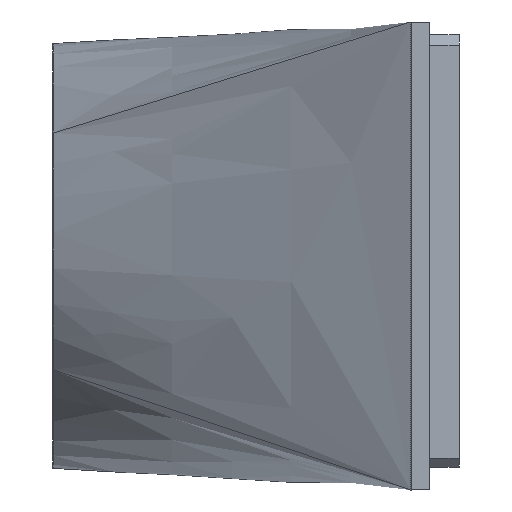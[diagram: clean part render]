
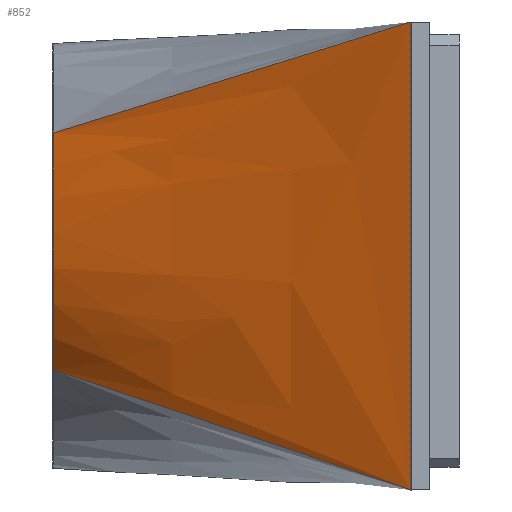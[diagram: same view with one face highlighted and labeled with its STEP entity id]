
A CAD part, front view. The second image highlights one B-rep face of the part: STEP entity #852.
In plain terms, the highlighted free-form (B-spline) face has degree [3, 3] with [6, 4] control points.
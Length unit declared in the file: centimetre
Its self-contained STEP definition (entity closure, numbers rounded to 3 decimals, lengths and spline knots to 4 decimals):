
#19=B_SPLINE_SURFACE_WITH_KNOTS($,3,3,((#1260,#1261,#1262,#1263),(#1264,
#1265,#1266,#1267),(#1268,#1269,#1270,#1271),(#1272,#1273,#1274,#1275),
(#1276,#1277,#1278,#1279),(#1280,#1281,#1282,#1283)),.UNSPECIFIED.,.F.,
 .F.,.F.,(4,1,1,4),(4,4),(0.,0.2857,0.5714,1.),(0.,
1.),.UNSPECIFIED.);
#52=CIRCLE($,#907,3.7);
#68=FACE_OUTER_BOUND($,#119,.T.);
#119=EDGE_LOOP($,(#598,#599,#600,#601));
#204=LINE($,#1225,#286);
#218=LINE($,#1285,#300);
#219=LINE($,#1288,#301);
#286=VECTOR($,#963,8.1513);
#300=VECTOR($,#991,7.5179);
#301=VECTOR($,#994,7.5082);
#372=VERTEX_POINT($,#1223);
#373=VERTEX_POINT($,#1224);
#388=VERTEX_POINT($,#1284);
#389=VERTEX_POINT($,#1286);
#456=EDGE_CURVE($,#372,#373,#204,.T.);
#474=EDGE_CURVE($,#372,#388,#218,.T.);
#475=EDGE_CURVE($,#389,#388,#52,.T.);
#476=EDGE_CURVE($,#373,#389,#219,.T.);
#598=ORIENTED_EDGE($,*,*,#456,.F.);
#599=ORIENTED_EDGE($,*,*,#474,.T.);
#600=ORIENTED_EDGE($,*,*,#475,.F.);
#601=ORIENTED_EDGE($,*,*,#476,.F.);
#852=ADVANCED_FACE($,(#68),#19,.F.);
#907=AXIS2_PLACEMENT_3D($,#1287,#992,#993);
#963=DIRECTION($,(0.,0.,-1.));
#991=DIRECTION($,(-0.828,0.498,-0.257));
#992=DIRECTION('center_axis',(-1.,0.,0.));
#993=DIRECTION('ref_axis',(0.,0.,-1.));
#994=DIRECTION($,(-0.829,0.485,0.279));
#1223=CARTESIAN_POINT('',(-21.7851,10.129,9.9013));
#1224=CARTESIAN_POINT('',(-21.7851,10.1285,1.75));
#1225=CARTESIAN_POINT($,(-21.7851,10.1288,5.826));
#1260=CARTESIAN_POINT('Ctrl Pts',(-21.7851,10.129,9.9013));
#1261=CARTESIAN_POINT('Ctrl Pts',(-23.8596,11.3781,9.2566));
#1262=CARTESIAN_POINT('Ctrl Pts',(-25.9342,12.6273,8.6119));
#1263=CARTESIAN_POINT('Ctrl Pts',(-28.0088,13.8764,7.9672));
#1264=CARTESIAN_POINT('Ctrl Pts',(-21.7851,10.1289,9.125));
#1265=CARTESIAN_POINT('Ctrl Pts',(-23.8596,11.2976,8.6258));
#1266=CARTESIAN_POINT('Ctrl Pts',(-25.9342,12.4665,8.1265));
#1267=CARTESIAN_POINT('Ctrl Pts',(-28.0088,13.6352,7.6273));
#1268=CARTESIAN_POINT('Ctrl Pts',(-21.7851,10.1289,7.5723));
#1269=CARTESIAN_POINT('Ctrl Pts',(-23.8596,11.1755,7.3367));
#1270=CARTESIAN_POINT('Ctrl Pts',(-25.9342,12.2226,7.1011));
#1271=CARTESIAN_POINT('Ctrl Pts',(-28.0088,13.2693,6.8655));
#1272=CARTESIAN_POINT('Ctrl Pts',(-21.7851,10.1287,4.8552));
#1273=CARTESIAN_POINT('Ctrl Pts',(-23.8596,11.1209,5.035));
#1274=CARTESIAN_POINT('Ctrl Pts',(-25.9342,12.1131,5.2147));
#1275=CARTESIAN_POINT('Ctrl Pts',(-28.0088,13.1053,5.3945));
#1276=CARTESIAN_POINT('Ctrl Pts',(-21.7851,10.1286,2.9145));
#1277=CARTESIAN_POINT('Ctrl Pts',(-23.8596,11.2302,3.3998));
#1278=CARTESIAN_POINT('Ctrl Pts',(-25.9342,12.333,3.8856));
#1279=CARTESIAN_POINT('Ctrl Pts',(-28.0088,13.4347,4.3709));
#1280=CARTESIAN_POINT('Ctrl Pts',(-21.7851,10.1285,1.75));
#1281=CARTESIAN_POINT('Ctrl Pts',(-23.8596,11.3422,2.4477));
#1282=CARTESIAN_POINT('Ctrl Pts',(-25.9342,12.5559,3.1454));
#1283=CARTESIAN_POINT('Ctrl Pts',(-28.0088,13.7697,3.8431));
#1284=CARTESIAN_POINT('',(-28.0088,13.8764,7.9672));
#1285=CARTESIAN_POINT($,(-21.7851,10.129,9.9013));
#1286=CARTESIAN_POINT('',(-28.0088,13.7697,3.8431));
#1287=CARTESIAN_POINT('Origin',(-28.0088,16.8937,5.8256));
#1288=CARTESIAN_POINT($,(-21.7851,10.1285,1.75));
